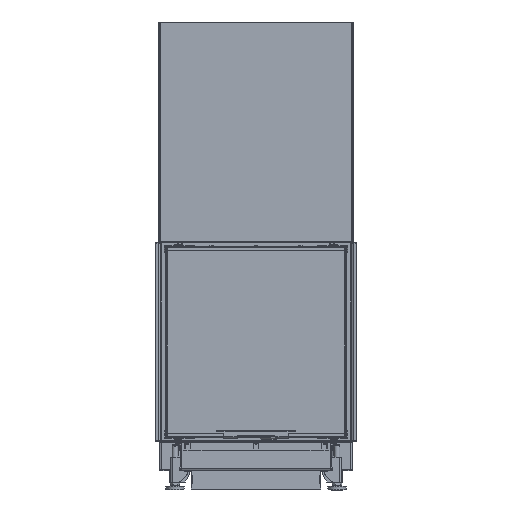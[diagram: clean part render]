
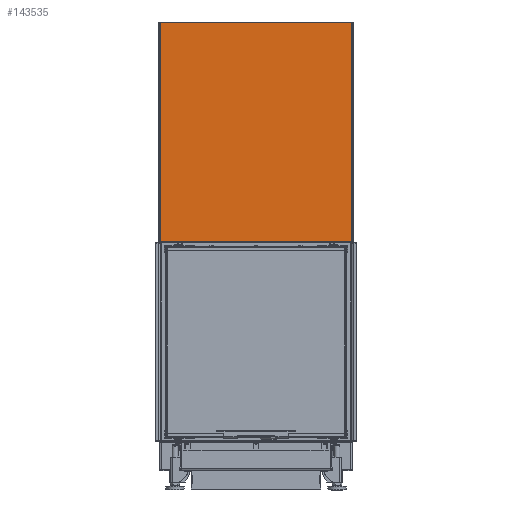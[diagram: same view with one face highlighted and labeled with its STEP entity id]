
A CAD part, front view. The second image highlights one B-rep face of the part: STEP entity #143535.
In plain terms, the highlighted planar face has unit normal (0, -1, 0).
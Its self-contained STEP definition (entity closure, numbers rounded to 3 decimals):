
#6745=FACE_OUTER_BOUND('',#14627,.T.);
#14627=EDGE_LOOP('',(#96813,#96814,#96815,#96816,#96817,#96818));
#29320=LINE('',#215507,#43456);
#29325=LINE('',#215595,#43461);
#29333=LINE('',#215814,#43469);
#29334=LINE('',#215816,#43470);
#29335=LINE('',#215820,#43471);
#29338=LINE('',#215826,#43474);
#43456=VECTOR('',#170262,10.);
#43461=VECTOR('',#170279,10.);
#43469=VECTOR('',#170301,10.);
#43470=VECTOR('',#170304,10.);
#43471=VECTOR('',#170311,10.);
#43474=VECTOR('',#170320,10.);
#57642=VERTEX_POINT('',#215488);
#57643=VERTEX_POINT('',#215499);
#57649=VERTEX_POINT('',#215588);
#57651=VERTEX_POINT('',#215594);
#57660=VERTEX_POINT('',#215805);
#57661=VERTEX_POINT('',#215812);
#72349=EDGE_CURVE('',#57643,#57642,#29320,.T.);
#72361=EDGE_CURVE('',#57651,#57642,#29325,.T.);
#72385=EDGE_CURVE('',#57660,#57661,#29333,.T.);
#72386=EDGE_CURVE('',#57649,#57651,#29334,.T.);
#72388=EDGE_CURVE('',#57661,#57649,#29335,.T.);
#72392=EDGE_CURVE('',#57643,#57660,#29338,.T.);
#96813=ORIENTED_EDGE('',*,*,#72386,.T.);
#96814=ORIENTED_EDGE('',*,*,#72361,.T.);
#96815=ORIENTED_EDGE('',*,*,#72349,.F.);
#96816=ORIENTED_EDGE('',*,*,#72392,.T.);
#96817=ORIENTED_EDGE('',*,*,#72385,.T.);
#96818=ORIENTED_EDGE('',*,*,#72388,.T.);
#134511=PLANE('',#152416);
#143535=ADVANCED_FACE('',(#6745),#134511,.T.);
#152416=AXIS2_PLACEMENT_3D('',#215825,#170318,#170319);
#170262=DIRECTION('',(1.,0.,0.));
#170279=DIRECTION('',(0.,0.,1.));
#170301=DIRECTION('',(0.,0.,-1.));
#170304=DIRECTION('',(0.,0.,1.));
#170311=DIRECTION('',(1.,0.,0.));
#170318=DIRECTION('center_axis',(0.,-1.,0.));
#170319=DIRECTION('ref_axis',(1.,0.,0.));
#170320=DIRECTION('',(0.,0.,-1.));
#215488=CARTESIAN_POINT('',(265.75,-328.496,1242.25));
#215499=CARTESIAN_POINT('',(-265.75,-328.496,1242.25));
#215507=CARTESIAN_POINT('',(0.,-328.496,1242.25));
#215588=CARTESIAN_POINT('',(265.75,-328.496,635.25));
#215594=CARTESIAN_POINT('',(265.75,-328.496,1241.57));
#215595=CARTESIAN_POINT('',(265.75,-328.496,808.846));
#215805=CARTESIAN_POINT('',(-265.75,-328.496,1241.57));
#215812=CARTESIAN_POINT('',(-265.75,-328.496,635.25));
#215814=CARTESIAN_POINT('',(-265.75,-328.496,1112.346));
#215816=CARTESIAN_POINT('',(265.75,-328.496,808.846));
#215820=CARTESIAN_POINT('',(134.25,-328.496,635.25));
#215825=CARTESIAN_POINT('Origin',(0.,-328.496,
982.441));
#215826=CARTESIAN_POINT('',(-265.75,-328.496,1112.346));
